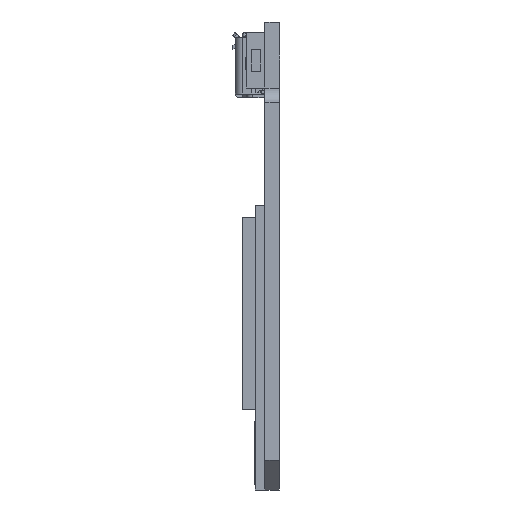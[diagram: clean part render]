
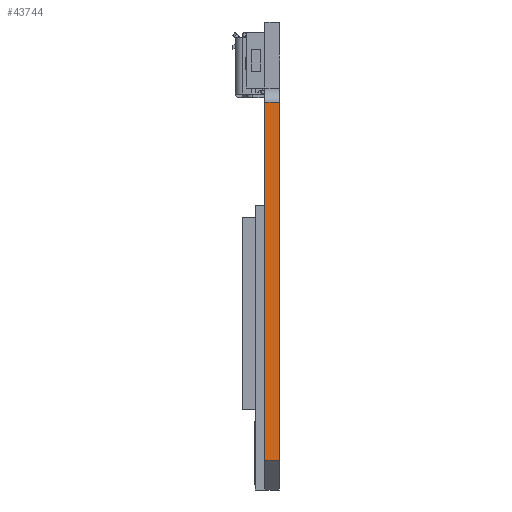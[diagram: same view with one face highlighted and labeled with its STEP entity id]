
A CAD part, left-side view. The second image highlights one B-rep face of the part: STEP entity #43744.
In plain terms, the highlighted planar face has unit normal (-1, 0, 0).
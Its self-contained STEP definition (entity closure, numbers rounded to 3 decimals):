
#111 = VECTOR ( 'NONE', #10015, 1000. ) ;
#943 = ORIENTED_EDGE ( 'NONE', *, *, #61046, .F. ) ;
#1365 = VECTOR ( 'NONE', #42627, 1000. ) ;
#7568 = VERTEX_POINT ( 'NONE', #74707 ) ;
#7837 = LINE ( 'NONE', #31916, #1365 ) ;
#8631 = EDGE_LOOP ( 'NONE', ( #45341, #943, #23455, #69328 ) ) ;
#9395 = EDGE_CURVE ( 'NONE', #40685, #42249, #58229, .T. ) ;
#10015 = DIRECTION ( 'NONE',  ( 0., -1., 0. ) ) ;
#14229 = PLANE ( 'NONE',  #70099 ) ;
#15857 = DIRECTION ( 'NONE',  ( 0., 0., 1. ) ) ;
#18589 = VECTOR ( 'NONE', #15857, 1000. ) ;
#19771 = DIRECTION ( 'NONE',  ( 0., 0., -1. ) ) ;
#23455 = ORIENTED_EDGE ( 'NONE', *, *, #63467, .F. ) ;
#24248 = CARTESIAN_POINT ( 'NONE',  ( -152.757, 42.18, 56.341 ) ) ;
#26008 = VERTEX_POINT ( 'NONE', #71226 ) ;
#31916 = CARTESIAN_POINT ( 'NONE',  ( -152.757, 40.98, 26.541 ) ) ;
#35557 = CARTESIAN_POINT ( 'NONE',  ( -152.757, 42.18, 26.541 ) ) ;
#36406 = EDGE_CURVE ( 'NONE', #42249, #26008, #7837, .T. ) ;
#38331 = CARTESIAN_POINT ( 'NONE',  ( -152.757, 42.18, 26.541 ) ) ;
#40685 = VERTEX_POINT ( 'NONE', #35557 ) ;
#42249 = VERTEX_POINT ( 'NONE', #59117 ) ;
#42627 = DIRECTION ( 'NONE',  ( 0., 0., 1. ) ) ;
#43744 = ADVANCED_FACE ( 'NONE', ( #43893 ), #14229, .F. ) ;
#43893 = FACE_OUTER_BOUND ( 'NONE', #8631, .T. ) ;
#45341 = ORIENTED_EDGE ( 'NONE', *, *, #36406, .T. ) ;
#45892 = LINE ( 'NONE', #64471, #18589 ) ;
#58229 = LINE ( 'NONE', #70112, #111 ) ;
#59117 = CARTESIAN_POINT ( 'NONE',  ( -152.757, 40.98, 26.541 ) ) ;
#59460 = LINE ( 'NONE', #24248, #77996 ) ;
#61046 = EDGE_CURVE ( 'NONE', #7568, #26008, #59460, .T. ) ;
#62449 = DIRECTION ( 'NONE',  ( 1., 0., 0. ) ) ;
#63467 = EDGE_CURVE ( 'NONE', #40685, #7568, #45892, .T. ) ;
#64471 = CARTESIAN_POINT ( 'NONE',  ( -152.757, 42.18, 26.541 ) ) ;
#69328 = ORIENTED_EDGE ( 'NONE', *, *, #9395, .T. ) ;
#70099 = AXIS2_PLACEMENT_3D ( 'NONE', #38331, #62449, #19771 ) ;
#70112 = CARTESIAN_POINT ( 'NONE',  ( -152.757, 42.18, 26.541 ) ) ;
#71226 = CARTESIAN_POINT ( 'NONE',  ( -152.757, 40.98, 56.341 ) ) ;
#71736 = DIRECTION ( 'NONE',  ( 0., -1., 0. ) ) ;
#74707 = CARTESIAN_POINT ( 'NONE',  ( -152.757, 42.18, 56.341 ) ) ;
#77996 = VECTOR ( 'NONE', #71736, 1000. ) ;
